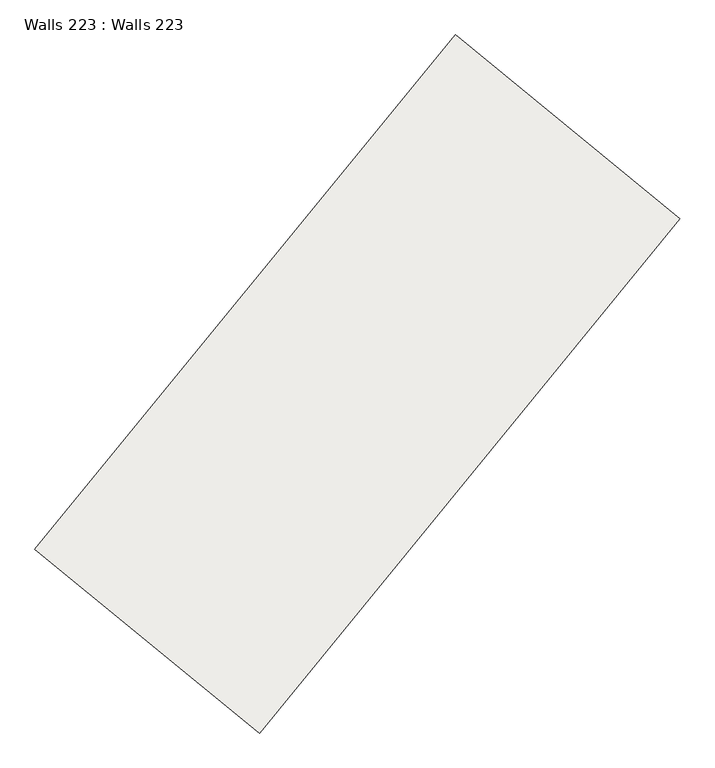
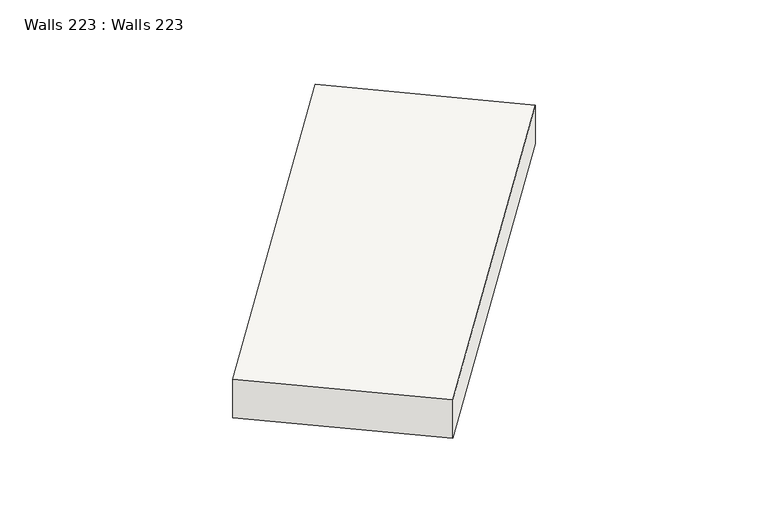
"""IFC4 building model written with IfcOpenShell, lengths in millimetres: slab geometry, Walls 223 : Walls 223."""

from ifc_helpers import new_model, si_unit, frame, origin, place, context, project, spatial, polyline, outline, extrude, source, transform, mapped, element, save


def walls_223_walls_223_34dd5ba4(model_context):
    return source(origin(), model_context, "Body", "SweptSolid", [
        extrude(outline(polyline([(-400.0, 0.0), (400.0, 0.0), (288.0, -8700.0000007), (-512.0, -8700.0000007), (-400.0, 0.0)])), frame((402130.6746125, 270467.0416102, 645426.0), z_axis=(-0.7739621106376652, 0.6332319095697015, 0.0), x_axis=(0.0, 0.0, 1.0)), (0.0, 0.0, 1.0), 3800.0),
    ])


if __name__ == "__main__":
    model = new_model("IFC4")
    model_context = context("Model", 3, world=origin())
    ifc_project = project(units=[si_unit("LENGTHUNIT", "METRE", prefix="MILLI")], contexts=[model_context])
    site = spatial("IfcSite", under=ifc_project)
    building = spatial("IfcBuilding", under=site)
    placement = place(None, origin())
    walls_223_walls_223_shape = walls_223_walls_223_34dd5ba4(model_context)
    element("IfcSlab", 1, ObjectType="Walls 223 : Walls 223", at=placement, inside=building, context=model_context, shape_type="MappedRepresentation", body=[
        mapped(walls_223_walls_223_shape, transform((0.0, 0.0, 0.0), x_axis=(1.0, 0.0, 0.0), y_axis=(0.0, 1.0, 0.0), z_axis=(0.0, 0.0, 1.0))),
    ])
    save(model, "model.ifc")
